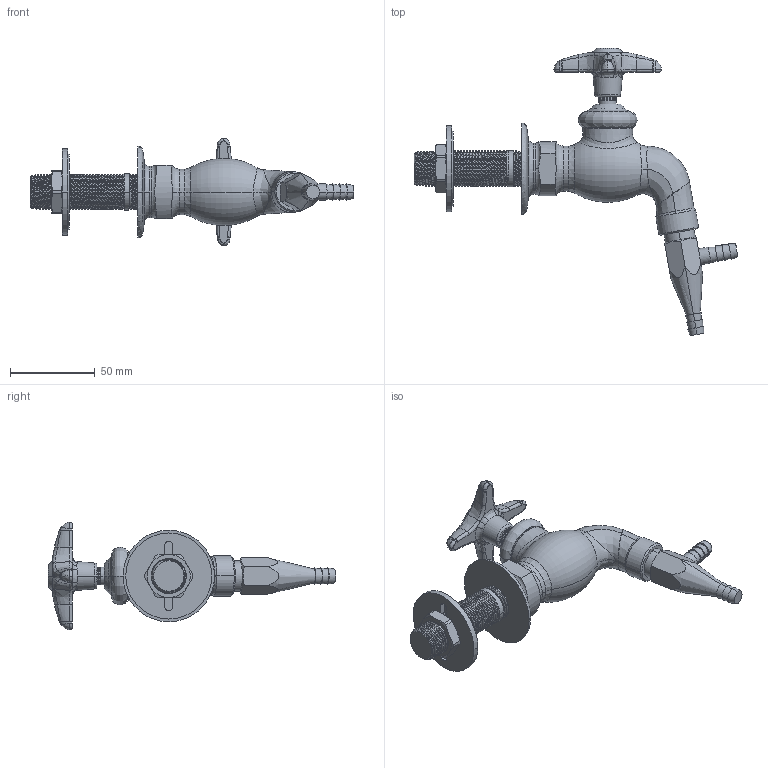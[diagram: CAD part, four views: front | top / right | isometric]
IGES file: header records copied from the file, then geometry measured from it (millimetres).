
Start section:  PTC IGES file: LWV4-C31.igs
Global section: file name: LWV4-C31.igs; native system: Creo Parametric by PTC Inc.; preprocessor: 2014500; author: usch_engrender; organization: Unknown; date: 20150915.132232; units: inch
Bounding box: 191.19 x 169.69 x 63.42 mm (x, y, z)
Volume: 161447.4 mm3; surface area: 36742.8 mm2
Topology: 1 solids, 2 shells, 421 faces, 1016 edges, 615 vertices
Faces by surface type: bspline 239, revolution 182
